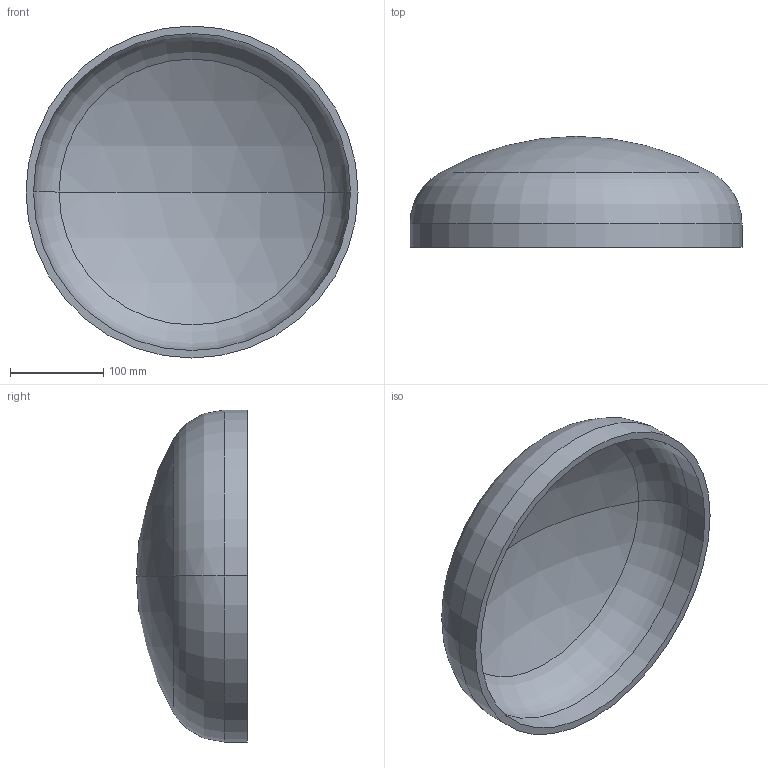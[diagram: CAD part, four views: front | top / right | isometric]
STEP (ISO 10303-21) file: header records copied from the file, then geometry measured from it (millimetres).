
FILE_DESCRIPTION (( 'STEP AP203' ), '1' );
FILE_NAME ('DIN 28013 Korbbogenform_-_Boden DIN 28013 - 355,6 x 25 - I - s=8.step', '2016-07-01T07:46:14', ( '' ), ( '' ), 'SwSTEP 2.0', 'SolidWorks 2013', '' );
FILE_SCHEMA (( 'CONFIG_CONTROL_DESIGN' ));
Length unit declared in the file: millimetre
Products named in the file (1): DIN 28013 Korbbogenform_-_Boden DIN 28013 - 355,6 x 25 - I - s=8
Bounding box: 355.6 x 118.85 x 355.6 mm (x, y, z)
Volume: 1287810.8 mm3; surface area: 330822.8 mm2
Topology: 1 solids, 1 shells, 13 faces, 24 edges, 14 vertices
Faces by surface type: torus 4, cylinder 4, sphere 4, plane 1
Entity records: 407 total; most frequent: DIRECTION 72, CARTESIAN_POINT 52, ORIENTED_EDGE 48, AXIS2_PLACEMENT_3D 34, EDGE_CURVE 24, CIRCLE 20, VERTEX_POINT 14, EDGE_LOOP 14
